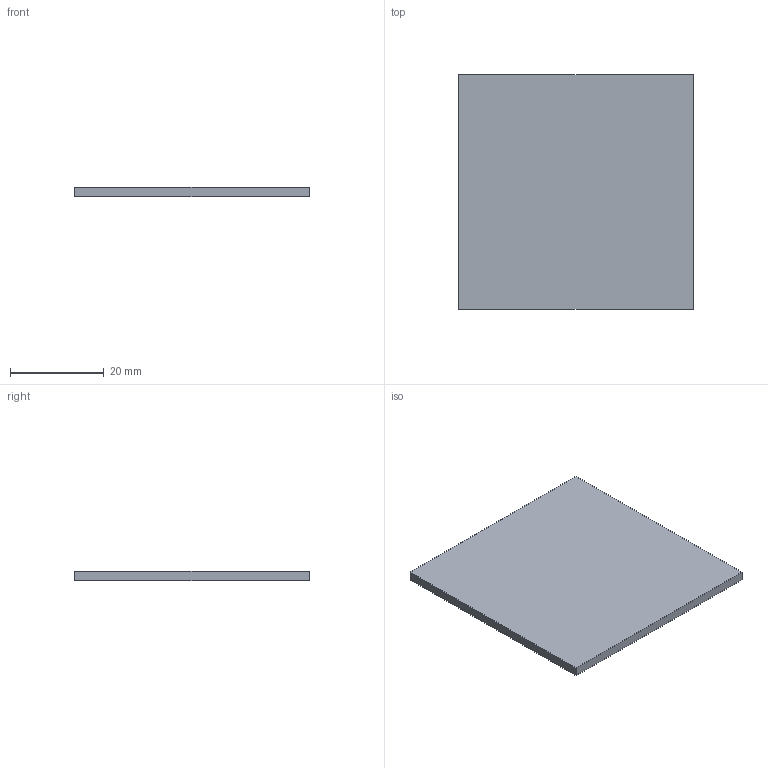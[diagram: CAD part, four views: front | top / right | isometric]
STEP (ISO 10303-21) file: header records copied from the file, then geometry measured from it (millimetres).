
FILE_DESCRIPTION(('FreeCAD Model'),'2;1');
FILE_NAME('Open CASCADE Shape Model','2026-10-03T19:08:42',('Author'),( ''),'Open CASCADE STEP processor 7.8','FreeCAD','Unknown');
FILE_SCHEMA(('AUTOMOTIVE_DESIGN { 1 0 10303 214 1 1 1 1 }'));
Length unit declared in the file: millimetre
Products named in the file (1): ClearPanel_50x50x2_REFERENCE
Bounding box: 50 x 50 x 2 mm (x, y, z)
Volume: 5000 mm3; surface area: 5400 mm2
Topology: 1 solids, 1 shells, 6 faces, 12 edges, 8 vertices
Faces by surface type: bspline 6
Entity records: 154 total; most frequent: CARTESIAN_POINT 57, ORIENTED_EDGE 24, EDGE_CURVE 12, B_SPLINE_CURVE_WITH_KNOTS 12, VERTEX_POINT 8, ADVANCED_FACE 6, FACE_BOUND 6, EDGE_LOOP 6
